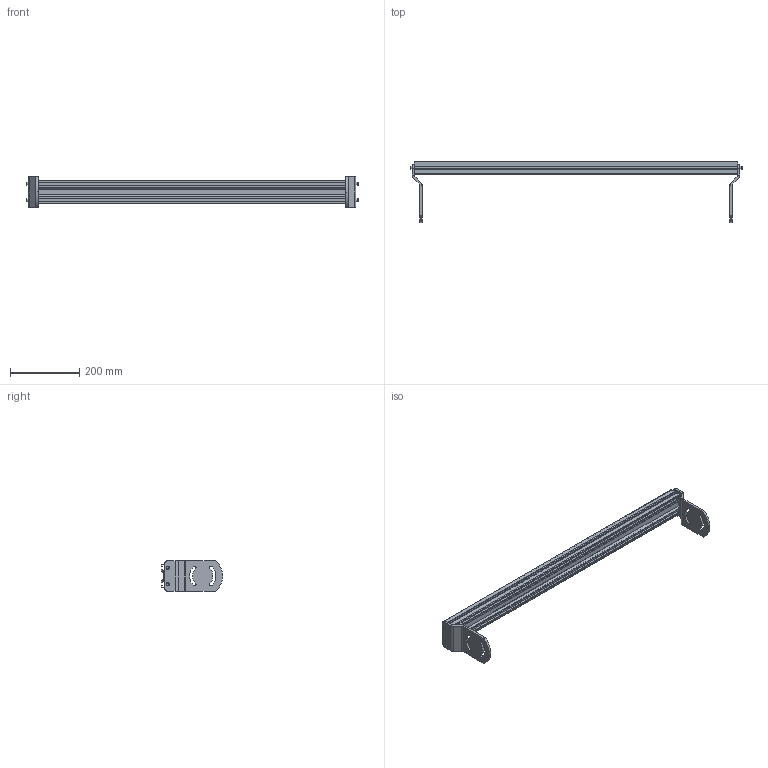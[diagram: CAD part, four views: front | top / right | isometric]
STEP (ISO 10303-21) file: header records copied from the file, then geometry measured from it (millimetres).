
FILE_DESCRIPTION((''),'2;1');
FILE_NAME('39MCM34-3_ASM','2023-03-01T',('jenni.wallner'),(''),'PRO/ENGINEER BY PARAMETRIC TECHNOLOGY CORPORATION, 2012420','PRO/ENGINEER BY PARAMETRIC TECHNOLOGY CORPORATION, 2012420','');
FILE_SCHEMA(('CONFIG_CONTROL_DESIGN'));
Length unit declared in the file: inch
Products named in the file (4): 710210_03679; 300825M; 708180P; 39MCM34-3_ASM
Assembly tree (7 placements, depth 2):
  39MCM34-3_ASM
    710210_03679
    300825M  x2
    708180P  x4
Bounding box: 959.17 x 176.65 x 88.93 mm (x, y, z)
Volume: 839028 mm3; surface area: 619673.1 mm2
Topology: 7 solids, 7 shells, 256 faces, 662 edges, 428 vertices
Faces by surface type: plane 144, cylinder 92, cone 20
Entity records: 4895 total; most frequent: CARTESIAN_POINT 859, DIRECTION 825, ORIENTED_EDGE 816, EDGE_CURVE 408, VECTOR 301, LINE 301, VERTEX_POINT 266, AXIS2_PLACEMENT_3D 262
